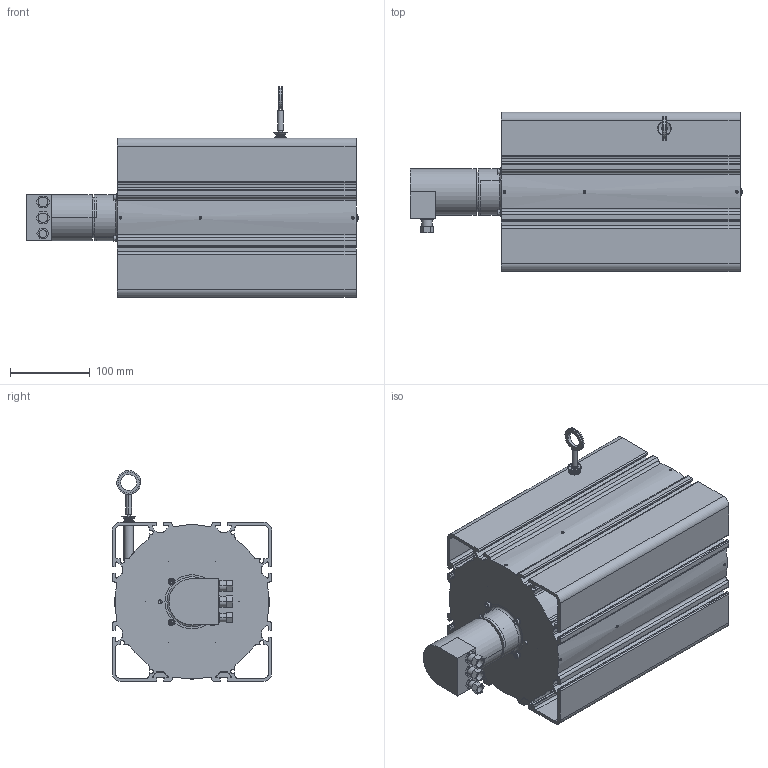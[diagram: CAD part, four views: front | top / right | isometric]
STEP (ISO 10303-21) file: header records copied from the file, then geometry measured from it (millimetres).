
FILE_DESCRIPTION((''),'2;1');
FILE_NAME('','2007-05-29T',(''),(''),'PRO/ENGINEER BY PARAMETRIC TECHNOLOGY CORPORATION, 2003250','PRO/ENGINEER BY PARAMETRIC TECHNOLOGY CORPORATION, 2003250','');
FILE_SCHEMA(('CONFIG_CONTROL_DESIGN'));
Length unit declared in the file: millimetre
Bounding box: 417.17 x 200 x 264.95 mm (x, y, z)
Volume: 2307789.7 mm3; surface area: 878764.5 mm2
Topology: 1 solids, 6 shells, 908 faces, 2407 edges, 1558 vertices
Faces by surface type: cylinder 404, plane 358, cone 102, torus 42, sphere 2
Entity records: 29408 total; most frequent: CARTESIAN_POINT 6286, DIRECTION 5011, ORIENTED_EDGE 4746, EDGE_CURVE 2373, AXIS2_PLACEMENT_3D 1896, VERTEX_POINT 1558, VECTOR 1219, LINE 1219
